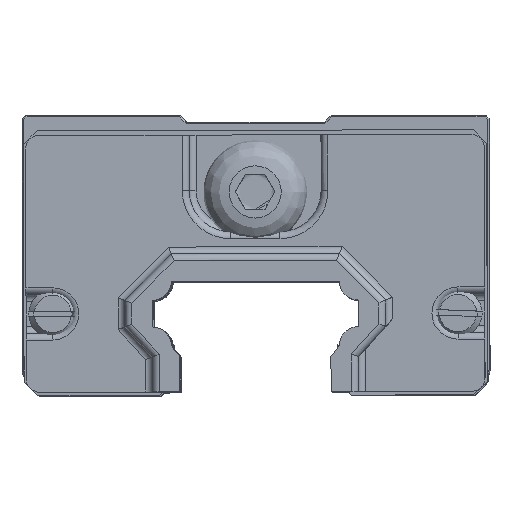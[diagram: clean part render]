
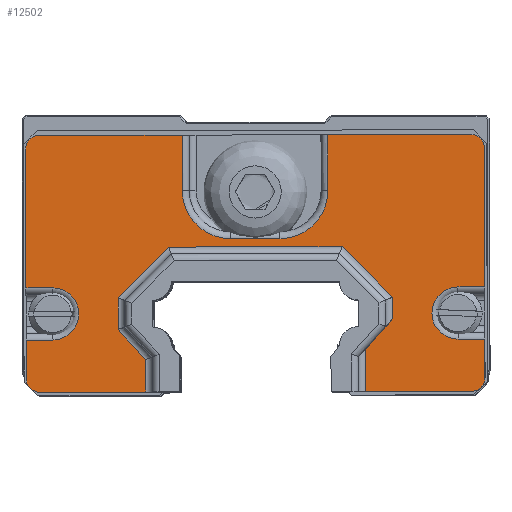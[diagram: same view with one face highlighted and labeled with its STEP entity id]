
A CAD part, top view. The second image highlights one B-rep face of the part: STEP entity #12502.
In plain terms, the highlighted planar face has unit normal (-0.003, 0, 1).
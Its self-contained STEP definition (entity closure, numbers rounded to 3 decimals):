
#753=PLANE('',#13779);
#1317=FACE_OUTER_BOUND('',#2061,.T.);
#2061=EDGE_LOOP('',(#10737,#10738,#10739,#10740,#10741,#10742,#10743,#10744,
#10745,#10746,#10747,#10748,#10749,#10750,#10751,#10752,#10753,#10754,#10755,
#10756,#10757,#10758,#10759,#10760,#10761,#10762,#10763,#10764,#10765,#10766,
#10767,#10768));
#3163=LINE('',#20825,#4392);
#3211=LINE('',#20975,#4440);
#3213=LINE('',#20987,#4442);
#3216=LINE('',#21000,#4445);
#3217=LINE('',#21002,#4446);
#3218=LINE('',#21004,#4447);
#3219=LINE('',#21006,#4448);
#3220=LINE('',#21008,#4449);
#3221=LINE('',#21010,#4450);
#3222=LINE('',#21012,#4451);
#3223=LINE('',#21014,#4452);
#3224=LINE('',#21016,#4453);
#3225=LINE('',#21017,#4454);
#3226=LINE('',#21021,#4455);
#3227=LINE('',#21023,#4456);
#3228=LINE('',#21027,#4457);
#3229=LINE('',#21029,#4458);
#3230=LINE('',#21033,#4459);
#3231=LINE('',#21035,#4460);
#3232=LINE('',#21039,#4461);
#3233=LINE('',#21043,#4462);
#3234=LINE('',#21045,#4463);
#3235=LINE('',#21048,#4464);
#3236=LINE('',#21051,#4465);
#4392=VECTOR('',#16505,10.);
#4440=VECTOR('',#16645,10.);
#4442=VECTOR('',#16655,10.);
#4445=VECTOR('',#16668,10.);
#4446=VECTOR('',#16669,10.);
#4447=VECTOR('',#16670,10.);
#4448=VECTOR('',#16671,10.);
#4449=VECTOR('',#16672,10.);
#4450=VECTOR('',#16673,10.);
#4451=VECTOR('',#16674,10.);
#4452=VECTOR('',#16675,10.);
#4453=VECTOR('',#16676,10.);
#4454=VECTOR('',#16677,10.);
#4455=VECTOR('',#16680,10.);
#4456=VECTOR('',#16681,10.);
#4457=VECTOR('',#16684,10.);
#4458=VECTOR('',#16685,10.);
#4459=VECTOR('',#16688,10.);
#4460=VECTOR('',#16689,10.);
#4461=VECTOR('',#16692,10.);
#4462=VECTOR('',#16695,10.);
#4463=VECTOR('',#16696,10.);
#4464=VECTOR('',#16699,10.);
#4465=VECTOR('',#16702,10.);
#5051=CIRCLE('',#13769,1.);
#5060=CIRCLE('',#13780,1.);
#5061=CIRCLE('',#13781,1.9);
#5062=CIRCLE('',#13782,1.);
#5063=CIRCLE('',#13783,3.5);
#5064=CIRCLE('',#13784,3.5);
#5065=CIRCLE('',#13785,1.);
#5066=CIRCLE('',#13786,1.9);
#6021=VERTEX_POINT('',#20822);
#6022=VERTEX_POINT('',#20824);
#6076=VERTEX_POINT('',#20968);
#6077=VERTEX_POINT('',#20969);
#6078=VERTEX_POINT('',#20974);
#6083=VERTEX_POINT('',#20984);
#6084=VERTEX_POINT('',#20986);
#6089=VERTEX_POINT('',#20999);
#6090=VERTEX_POINT('',#21001);
#6091=VERTEX_POINT('',#21003);
#6092=VERTEX_POINT('',#21005);
#6093=VERTEX_POINT('',#21007);
#6094=VERTEX_POINT('',#21009);
#6095=VERTEX_POINT('',#21011);
#6096=VERTEX_POINT('',#21013);
#6097=VERTEX_POINT('',#21015);
#6098=VERTEX_POINT('',#21018);
#6099=VERTEX_POINT('',#21020);
#6100=VERTEX_POINT('',#21022);
#6101=VERTEX_POINT('',#21024);
#6102=VERTEX_POINT('',#21026);
#6103=VERTEX_POINT('',#21028);
#6104=VERTEX_POINT('',#21030);
#6105=VERTEX_POINT('',#21032);
#6106=VERTEX_POINT('',#21034);
#6107=VERTEX_POINT('',#21036);
#6108=VERTEX_POINT('',#21038);
#6109=VERTEX_POINT('',#21040);
#6110=VERTEX_POINT('',#21042);
#6111=VERTEX_POINT('',#21044);
#6112=VERTEX_POINT('',#21047);
#6113=VERTEX_POINT('',#21049);
#7607=EDGE_CURVE('',#6022,#6021,#3163,.T.);
#7679=EDGE_CURVE('',#6076,#6077,#5051,.T.);
#7682=EDGE_CURVE('',#6077,#6078,#3211,.T.);
#7688=EDGE_CURVE('',#6083,#6084,#3213,.T.);
#7695=EDGE_CURVE('',#6089,#6076,#3216,.T.);
#7696=EDGE_CURVE('',#6090,#6089,#3217,.T.);
#7697=EDGE_CURVE('',#6091,#6090,#3218,.T.);
#7698=EDGE_CURVE('',#6092,#6091,#3219,.T.);
#7699=EDGE_CURVE('',#6093,#6092,#3220,.T.);
#7700=EDGE_CURVE('',#6094,#6093,#3221,.T.);
#7701=EDGE_CURVE('',#6095,#6094,#3222,.T.);
#7702=EDGE_CURVE('',#6096,#6095,#3223,.T.);
#7703=EDGE_CURVE('',#6096,#6097,#3224,.T.);
#7704=EDGE_CURVE('',#6022,#6097,#3225,.T.);
#7705=EDGE_CURVE('',#6098,#6021,#5060,.T.);
#7706=EDGE_CURVE('',#6098,#6099,#3226,.T.);
#7707=EDGE_CURVE('',#6100,#6099,#3227,.T.);
#7708=EDGE_CURVE('',#6101,#6100,#5061,.T.);
#7709=EDGE_CURVE('',#6102,#6101,#3228,.T.);
#7710=EDGE_CURVE('',#6102,#6103,#3229,.T.);
#7711=EDGE_CURVE('',#6104,#6103,#5062,.T.);
#7712=EDGE_CURVE('',#6104,#6105,#3230,.T.);
#7713=EDGE_CURVE('',#6106,#6105,#3231,.T.);
#7714=EDGE_CURVE('',#6107,#6106,#5063,.T.);
#7715=EDGE_CURVE('',#6108,#6107,#3232,.T.);
#7716=EDGE_CURVE('',#6109,#6108,#5064,.T.);
#7717=EDGE_CURVE('',#6110,#6109,#3233,.T.);
#7718=EDGE_CURVE('',#6110,#6111,#3234,.T.);
#7719=EDGE_CURVE('',#6084,#6111,#5065,.T.);
#7720=EDGE_CURVE('',#6112,#6083,#3235,.T.);
#7721=EDGE_CURVE('',#6113,#6112,#5066,.T.);
#7722=EDGE_CURVE('',#6078,#6113,#3236,.T.);
#10737=ORIENTED_EDGE('',*,*,#7679,.F.);
#10738=ORIENTED_EDGE('',*,*,#7695,.F.);
#10739=ORIENTED_EDGE('',*,*,#7696,.F.);
#10740=ORIENTED_EDGE('',*,*,#7697,.F.);
#10741=ORIENTED_EDGE('',*,*,#7698,.F.);
#10742=ORIENTED_EDGE('',*,*,#7699,.F.);
#10743=ORIENTED_EDGE('',*,*,#7700,.F.);
#10744=ORIENTED_EDGE('',*,*,#7701,.F.);
#10745=ORIENTED_EDGE('',*,*,#7702,.F.);
#10746=ORIENTED_EDGE('',*,*,#7703,.T.);
#10747=ORIENTED_EDGE('',*,*,#7704,.F.);
#10748=ORIENTED_EDGE('',*,*,#7607,.T.);
#10749=ORIENTED_EDGE('',*,*,#7705,.F.);
#10750=ORIENTED_EDGE('',*,*,#7706,.T.);
#10751=ORIENTED_EDGE('',*,*,#7707,.F.);
#10752=ORIENTED_EDGE('',*,*,#7708,.F.);
#10753=ORIENTED_EDGE('',*,*,#7709,.F.);
#10754=ORIENTED_EDGE('',*,*,#7710,.T.);
#10755=ORIENTED_EDGE('',*,*,#7711,.F.);
#10756=ORIENTED_EDGE('',*,*,#7712,.T.);
#10757=ORIENTED_EDGE('',*,*,#7713,.F.);
#10758=ORIENTED_EDGE('',*,*,#7714,.F.);
#10759=ORIENTED_EDGE('',*,*,#7715,.F.);
#10760=ORIENTED_EDGE('',*,*,#7716,.F.);
#10761=ORIENTED_EDGE('',*,*,#7717,.F.);
#10762=ORIENTED_EDGE('',*,*,#7718,.T.);
#10763=ORIENTED_EDGE('',*,*,#7719,.F.);
#10764=ORIENTED_EDGE('',*,*,#7688,.F.);
#10765=ORIENTED_EDGE('',*,*,#7720,.F.);
#10766=ORIENTED_EDGE('',*,*,#7721,.F.);
#10767=ORIENTED_EDGE('',*,*,#7722,.F.);
#10768=ORIENTED_EDGE('',*,*,#7682,.F.);
#12502=ADVANCED_FACE('',(#1317),#753,.T.);
#13769=AXIS2_PLACEMENT_3D('',#20970,#16639,#16640);
#13779=AXIS2_PLACEMENT_3D('',#20998,#16666,#16667);
#13780=AXIS2_PLACEMENT_3D('',#21019,#16678,#16679);
#13781=AXIS2_PLACEMENT_3D('',#21025,#16682,#16683);
#13782=AXIS2_PLACEMENT_3D('',#21031,#16686,#16687);
#13783=AXIS2_PLACEMENT_3D('',#21037,#16690,#16691);
#13784=AXIS2_PLACEMENT_3D('',#21041,#16693,#16694);
#13785=AXIS2_PLACEMENT_3D('',#21046,#16697,#16698);
#13786=AXIS2_PLACEMENT_3D('',#21050,#16700,#16701);
#16505=DIRECTION('',(1.,0.,0.));
#16639=DIRECTION('center_axis',(0.,0.,-1.));
#16640=DIRECTION('ref_axis',(-0.707,-0.707,0.));
#16645=DIRECTION('',(0.,1.,0.));
#16655=DIRECTION('',(0.,1.,0.));
#16666=DIRECTION('center_axis',(0.,0.,1.));
#16667=DIRECTION('ref_axis',(1.,0.,0.));
#16668=DIRECTION('',(-1.,0.,0.));
#16669=DIRECTION('',(0.,-1.,0.));
#16670=DIRECTION('',(0.675,-0.738,0.));
#16671=DIRECTION('',(0.,-1.,0.));
#16672=DIRECTION('',(-0.707,-0.707,0.));
#16673=DIRECTION('',(-1.,0.,0.));
#16674=DIRECTION('',(-0.707,0.707,0.));
#16675=DIRECTION('',(0.,1.,0.));
#16676=DIRECTION('',(-0.675,-0.738,0.));
#16677=DIRECTION('',(0.,1.,0.));
#16678=DIRECTION('center_axis',(0.,0.,-1.));
#16679=DIRECTION('ref_axis',(0.707,-0.707,0.));
#16680=DIRECTION('',(0.,1.,0.));
#16681=DIRECTION('',(1.,0.,0.));
#16682=DIRECTION('center_axis',(0.,0.,1.));
#16683=DIRECTION('ref_axis',(-1.,0.,0.));
#16684=DIRECTION('',(-1.,0.,0.));
#16685=DIRECTION('',(0.,1.,0.));
#16686=DIRECTION('center_axis',(0.,0.,-1.));
#16687=DIRECTION('ref_axis',(0.707,0.707,0.));
#16688=DIRECTION('',(-1.,0.,0.));
#16689=DIRECTION('',(0.,1.,0.));
#16690=DIRECTION('center_axis',(0.,0.,1.));
#16691=DIRECTION('ref_axis',(0.707,-0.707,0.));
#16692=DIRECTION('',(1.,0.,0.));
#16693=DIRECTION('center_axis',(0.,0.,1.));
#16694=DIRECTION('ref_axis',(-0.707,-0.707,0.));
#16695=DIRECTION('',(0.,-1.,0.));
#16696=DIRECTION('',(-1.,0.,0.));
#16697=DIRECTION('center_axis',(0.,0.,-1.));
#16698=DIRECTION('ref_axis',(-0.707,0.707,0.));
#16699=DIRECTION('',(-1.,0.,0.));
#16700=DIRECTION('center_axis',(0.,0.,1.));
#16701=DIRECTION('ref_axis',(1.,0.,0.));
#16702=DIRECTION('',(1.,0.,0.));
#20822=CARTESIAN_POINT('',(15.7,0.,0.5));
#20824=CARTESIAN_POINT('',(8.,0.,0.5));
#20825=CARTESIAN_POINT('',(16.7,0.,0.5));
#20968=CARTESIAN_POINT('',(-15.7,0.,0.5));
#20969=CARTESIAN_POINT('',(-16.7,1.,0.5));
#20970=CARTESIAN_POINT('Origin',(-15.7,1.,0.5));
#20974=CARTESIAN_POINT('',(-16.7,3.8,0.5));
#20975=CARTESIAN_POINT('',(-16.7,18.7,0.5));
#20984=CARTESIAN_POINT('',(-16.7,7.6,0.5));
#20986=CARTESIAN_POINT('',(-16.7,17.7,0.5));
#20987=CARTESIAN_POINT('',(-16.7,18.7,0.5));
#20998=CARTESIAN_POINT('Origin',(-8.988,9.847,0.5));
#20999=CARTESIAN_POINT('',(-8.,0.,0.5));
#21000=CARTESIAN_POINT('',(-16.7,0.,0.5));
#21001=CARTESIAN_POINT('',(-8.,2.356,0.5));
#21002=CARTESIAN_POINT('',(-8.,6.198,0.5));
#21003=CARTESIAN_POINT('',(-10.,4.542,0.5));
#21004=CARTESIAN_POINT('',(-11.025,5.662,0.5));
#21005=CARTESIAN_POINT('',(-10.,6.871,0.5));
#21006=CARTESIAN_POINT('',(-10.,8.255,0.5));
#21007=CARTESIAN_POINT('',(-6.321,10.55,0.5));
#21008=CARTESIAN_POINT('',(-7.237,9.634,0.5));
#21009=CARTESIAN_POINT('',(6.321,10.55,0.5));
#21010=CARTESIAN_POINT('',(-1.437,10.55,0.5));
#21011=CARTESIAN_POINT('',(10.,6.871,0.5));
#21012=CARTESIAN_POINT('',(4.436,12.435,0.5));
#21013=CARTESIAN_POINT('',(10.,5.282,0.5));
#21014=CARTESIAN_POINT('',(10.,7.291,0.5));
#21015=CARTESIAN_POINT('',(8.,3.097,0.5));
#21016=CARTESIAN_POINT('',(5.56,0.43,0.5));
#21017=CARTESIAN_POINT('',(8.,4.923,0.5));
#21018=CARTESIAN_POINT('',(16.7,1.,0.5));
#21019=CARTESIAN_POINT('Origin',(15.7,1.,0.5));
#21020=CARTESIAN_POINT('',(16.7,3.8,0.5));
#21021=CARTESIAN_POINT('',(16.7,18.7,0.5));
#21022=CARTESIAN_POINT('',(14.75,3.8,0.5));
#21023=CARTESIAN_POINT('',(2.881,3.8,0.5));
#21024=CARTESIAN_POINT('',(14.75,7.6,0.5));
#21025=CARTESIAN_POINT('Origin',(14.75,5.7,0.5));
#21026=CARTESIAN_POINT('',(16.7,7.6,0.5));
#21027=CARTESIAN_POINT('',(3.856,7.6,0.5));
#21028=CARTESIAN_POINT('',(16.7,17.7,0.5));
#21029=CARTESIAN_POINT('',(16.7,18.7,0.5));
#21030=CARTESIAN_POINT('',(15.7,18.7,0.5));
#21031=CARTESIAN_POINT('Origin',(15.7,17.7,0.5));
#21032=CARTESIAN_POINT('',(5.3,18.7,0.5));
#21033=CARTESIAN_POINT('',(0.,18.7,0.5));
#21034=CARTESIAN_POINT('',(5.3,14.65,0.5));
#21035=CARTESIAN_POINT('',(5.3,14.273,0.5));
#21036=CARTESIAN_POINT('',(1.8,11.15,0.5));
#21037=CARTESIAN_POINT('Origin',(1.8,14.65,0.5));
#21038=CARTESIAN_POINT('',(-1.8,11.15,0.5));
#21039=CARTESIAN_POINT('',(-2.094,11.15,0.5));
#21040=CARTESIAN_POINT('',(-5.3,14.65,0.5));
#21041=CARTESIAN_POINT('Origin',(-1.8,14.65,0.5));
#21042=CARTESIAN_POINT('',(-5.3,18.7,0.5));
#21043=CARTESIAN_POINT('',(-5.3,10.748,0.5));
#21044=CARTESIAN_POINT('',(-15.7,18.7,0.5));
#21045=CARTESIAN_POINT('',(0.,18.7,0.5));
#21046=CARTESIAN_POINT('Origin',(-15.7,17.7,0.5));
#21047=CARTESIAN_POINT('',(-14.75,7.6,0.5));
#21048=CARTESIAN_POINT('',(-12.844,7.6,0.5));
#21049=CARTESIAN_POINT('',(-14.75,3.8,0.5));
#21050=CARTESIAN_POINT('Origin',(-14.75,5.7,0.5));
#21051=CARTESIAN_POINT('',(-11.869,3.8,0.5));
